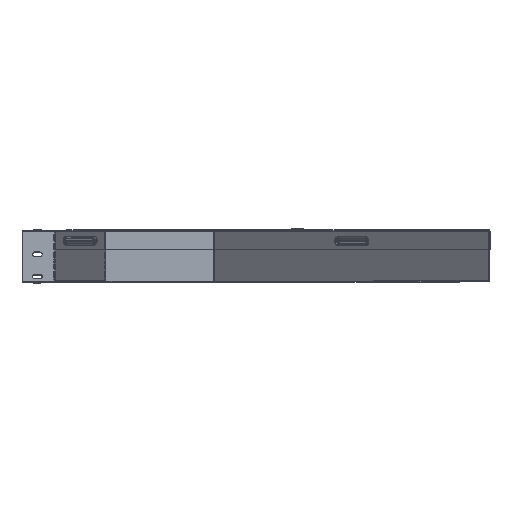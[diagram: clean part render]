
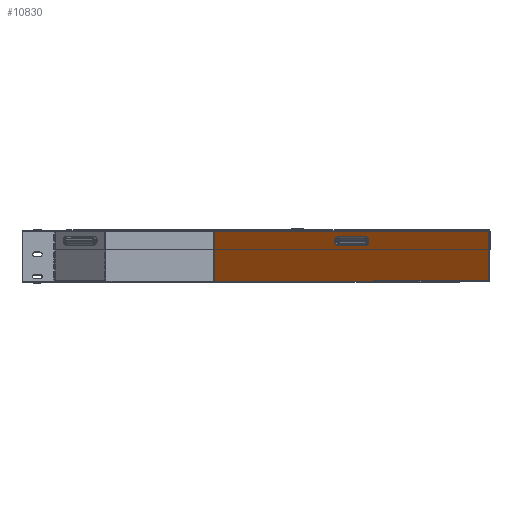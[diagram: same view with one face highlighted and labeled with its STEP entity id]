
A CAD part, top view. The second image highlights one B-rep face of the part: STEP entity #10830.
In plain terms, the highlighted planar face has unit normal (-0.707, 0, 0.707).
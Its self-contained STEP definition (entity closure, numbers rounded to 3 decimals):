
#42 = VECTOR ( 'NONE', #10178, 1000. ) ;
#629 = VECTOR ( 'NONE', #16770, 1000. ) ;
#666 = VERTEX_POINT ( 'NONE', #7996 ) ;
#679 = VECTOR ( 'NONE', #9662, 1000. ) ;
#1099 = EDGE_CURVE ( 'NONE', #6162, #20156, #16956, .T. ) ;
#1199 = LINE ( 'NONE', #11202, #679 ) ;
#1243 = VERTEX_POINT ( 'NONE', #13218 ) ;
#1672 = AXIS2_PLACEMENT_3D ( 'NONE', #12056, #2457, #10185 ) ;
#1702 = AXIS2_PLACEMENT_3D ( 'NONE', #1912, #14498, #16054 ) ;
#1912 = CARTESIAN_POINT ( 'NONE',  ( 149.434, 0., -149.434 ) ) ;
#2236 = LINE ( 'NONE', #19414, #18007 ) ;
#2280 = LINE ( 'NONE', #5417, #42 ) ;
#2457 = DIRECTION ( 'NONE',  ( -0.707, 0., 0.707 ) ) ;
#3726 = DIRECTION ( 'NONE',  ( -0.707, 0., -0.707 ) ) ;
#3774 = EDGE_LOOP ( 'NONE', ( #5026, #7511, #11818, #14009 ) ) ;
#4023 = EDGE_CURVE ( 'NONE', #17408, #15705, #2280, .T. ) ;
#4150 = CARTESIAN_POINT ( 'NONE',  ( 128.221, 56.183, -170.648 ) ) ;
#4162 = CARTESIAN_POINT ( 'NONE',  ( 149.434, 56.183, -149.434 ) ) ;
#4183 = CIRCLE ( 'NONE', #1672, 6.917 ) ;
#4504 = CARTESIAN_POINT ( 'NONE',  ( 364.123, 1., 65.255 ) ) ;
#4564 = CARTESIAN_POINT ( 'NONE',  ( 170.648, 70.017, -128.221 ) ) ;
#5026 = ORIENTED_EDGE ( 'NONE', *, *, #14199, .F. ) ;
#5417 = CARTESIAN_POINT ( 'NONE',  ( 364.123, 0., 65.255 ) ) ;
#6015 = CARTESIAN_POINT ( 'NONE',  ( 364.123, 78.2, 65.255 ) ) ;
#6162 = VERTEX_POINT ( 'NONE', #7513 ) ;
#6282 = LINE ( 'NONE', #17709, #15143 ) ;
#6527 = CARTESIAN_POINT ( 'NONE',  ( 170.648, 63.1, -128.221 ) ) ;
#6803 = EDGE_CURVE ( 'NONE', #666, #1243, #1199, .T. ) ;
#7245 = DIRECTION ( 'NONE',  ( -0.707, 0., -0.707 ) ) ;
#7511 = ORIENTED_EDGE ( 'NONE', *, *, #4023, .T. ) ;
#7513 = CARTESIAN_POINT ( 'NONE',  ( 170.648, 56.183, -128.221 ) ) ;
#7913 = VERTEX_POINT ( 'NONE', #4150 ) ;
#7996 = CARTESIAN_POINT ( 'NONE',  ( -65.255, 1., -364.123 ) ) ;
#8699 = ORIENTED_EDGE ( 'NONE', *, *, #11763, .F. ) ;
#9662 = DIRECTION ( 'NONE',  ( 0., 1., 0. ) ) ;
#10178 = DIRECTION ( 'NONE',  ( 0., 1., 0. ) ) ;
#10185 = DIRECTION ( 'NONE',  ( 0., 1., 0. ) ) ;
#10499 = VERTEX_POINT ( 'NONE', #19320 ) ;
#10830 = ADVANCED_FACE ( 'NONE', ( #13784, #15474 ), #12777, .T. ) ;
#11202 = CARTESIAN_POINT ( 'NONE',  ( -65.255, 0., -364.123 ) ) ;
#11496 = ORIENTED_EDGE ( 'NONE', *, *, #17806, .F. ) ;
#11587 = AXIS2_PLACEMENT_3D ( 'NONE', #6527, #18980, #12812 ) ;
#11721 = ORIENTED_EDGE ( 'NONE', *, *, #14980, .F. ) ;
#11763 = EDGE_CURVE ( 'NONE', #7913, #6162, #15218, .T. ) ;
#11818 = ORIENTED_EDGE ( 'NONE', *, *, #18633, .F. ) ;
#12056 = CARTESIAN_POINT ( 'NONE',  ( 128.221, 63.1, -170.648 ) ) ;
#12569 = VECTOR ( 'NONE', #15931, 1000. ) ;
#12777 = PLANE ( 'NONE',  #1702 ) ;
#12812 = DIRECTION ( 'NONE',  ( 0., 1., 0. ) ) ;
#13218 = CARTESIAN_POINT ( 'NONE',  ( -65.255, 78.2, -364.123 ) ) ;
#13784 = FACE_BOUND ( 'NONE', #19187, .T. ) ;
#14009 = ORIENTED_EDGE ( 'NONE', *, *, #6803, .F. ) ;
#14199 = EDGE_CURVE ( 'NONE', #17408, #666, #2236, .T. ) ;
#14498 = DIRECTION ( 'NONE',  ( -0.707, 0., 0.707 ) ) ;
#14980 = EDGE_CURVE ( 'NONE', #20156, #10499, #6282, .T. ) ;
#15143 = VECTOR ( 'NONE', #7245, 1000. ) ;
#15218 = LINE ( 'NONE', #4162, #629 ) ;
#15474 = FACE_OUTER_BOUND ( 'NONE', #3774, .T. ) ;
#15705 = VERTEX_POINT ( 'NONE', #6015 ) ;
#15931 = DIRECTION ( 'NONE',  ( 0.707, 0., 0.707 ) ) ;
#16054 = DIRECTION ( 'NONE',  ( 0.707, 0., 0.707 ) ) ;
#16770 = DIRECTION ( 'NONE',  ( 0.707, 0., 0.707 ) ) ;
#16956 = CIRCLE ( 'NONE', #11587, 6.917 ) ;
#17246 = CARTESIAN_POINT ( 'NONE',  ( 364.434, 78.2, 65.566 ) ) ;
#17408 = VERTEX_POINT ( 'NONE', #4504 ) ;
#17699 = LINE ( 'NONE', #17246, #12569 ) ;
#17709 = CARTESIAN_POINT ( 'NONE',  ( 149.434, 70.017, -149.434 ) ) ;
#17806 = EDGE_CURVE ( 'NONE', #10499, #7913, #4183, .T. ) ;
#18007 = VECTOR ( 'NONE', #3726, 1000. ) ;
#18633 = EDGE_CURVE ( 'NONE', #1243, #15705, #17699, .T. ) ;
#18980 = DIRECTION ( 'NONE',  ( -0.707, 0., 0.707 ) ) ;
#19156 = ORIENTED_EDGE ( 'NONE', *, *, #1099, .F. ) ;
#19187 = EDGE_LOOP ( 'NONE', ( #11496, #11721, #19156, #8699 ) ) ;
#19320 = CARTESIAN_POINT ( 'NONE',  ( 128.221, 70.017, -170.648 ) ) ;
#19414 = CARTESIAN_POINT ( 'NONE',  ( 364.434, 1., 65.566 ) ) ;
#20156 = VERTEX_POINT ( 'NONE', #4564 ) ;
